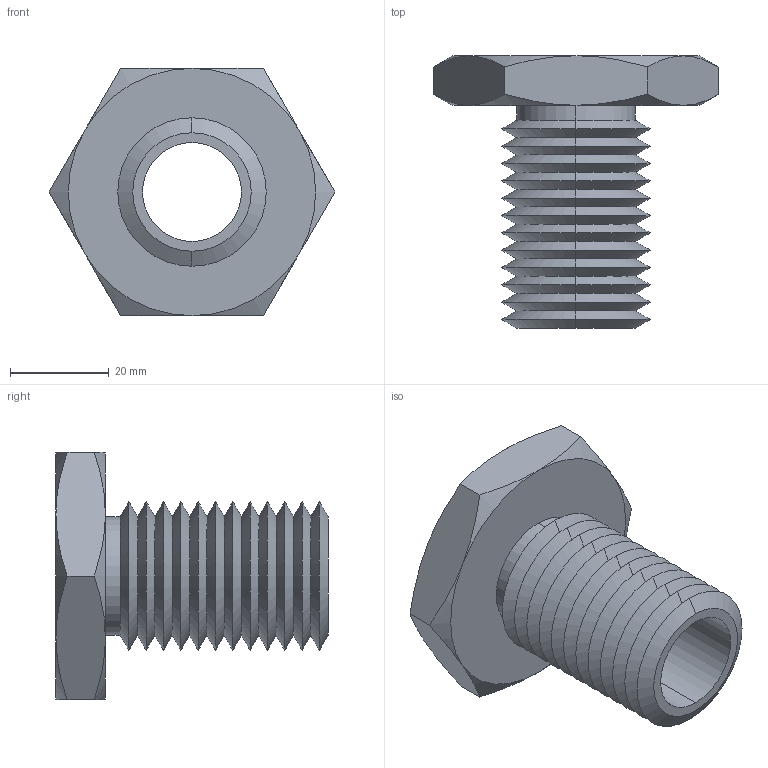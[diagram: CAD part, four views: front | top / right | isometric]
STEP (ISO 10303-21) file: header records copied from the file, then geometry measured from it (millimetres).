
FILE_DESCRIPTION (( 'STEP AP203' ), '1' );
FILE_NAME ('63302.W0030_M20x2,5.step', '2013-12-08T11:06:54', ( 'User' ), ( '' ), 'SwSTEP 2.0', 'SolidWorks 2009', '' );
FILE_SCHEMA (( 'CONFIG_CONTROL_DESIGN' ));
Length unit declared in the file: millimetre
Products named in the file (1): 63302.W0030_M20x2,5
Bounding box: 57.73 x 55 x 50 mm (x, y, z)
Volume: 29330.8 mm3; surface area: 15945.3 mm2
Topology: 1 solids, 1 shells, 75 faces, 154 edges, 82 vertices
Faces by surface type: cone 62, plane 9, cylinder 4
Entity records: 2139 total; most frequent: CARTESIAN_POINT 496, DIRECTION 352, ORIENTED_EDGE 308, EDGE_CURVE 154, AXIS2_PLACEMENT_3D 146, VERTEX_POINT 82, EDGE_LOOP 78, ADVANCED_FACE 75
